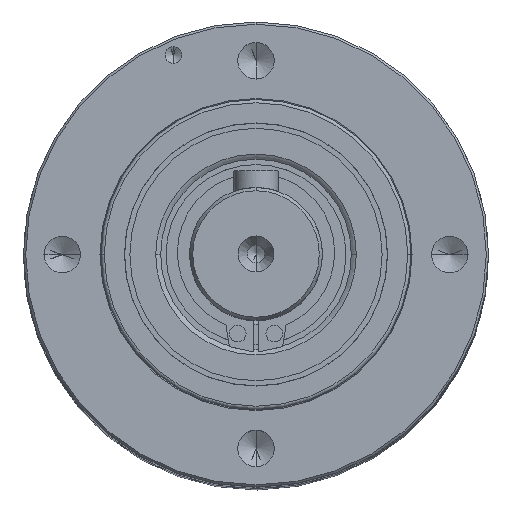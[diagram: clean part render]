
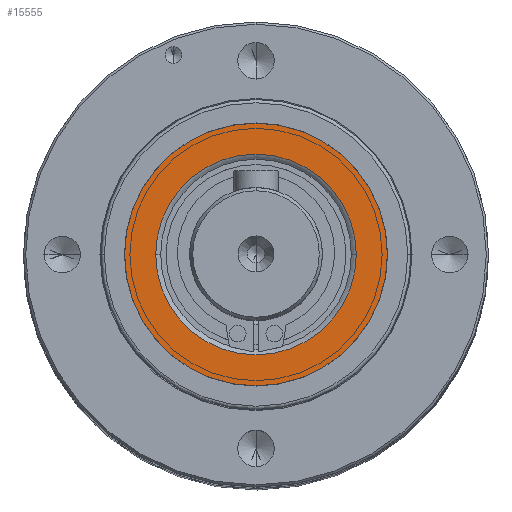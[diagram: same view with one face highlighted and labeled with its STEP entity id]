
A CAD part, top view. The second image highlights one B-rep face of the part: STEP entity #15555.
In plain terms, the highlighted planar face has unit normal (0, 0, 1).
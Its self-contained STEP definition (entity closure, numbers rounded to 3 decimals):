
#1227 = VERTEX_POINT ( 'NONE', #36074 ) ;
#2956 = EDGE_CURVE ( 'NONE', #4146, #1227, #72561, .T. ) ;
#4146 = VERTEX_POINT ( 'NONE', #12856 ) ;
#7455 = DIRECTION ( 'NONE',  ( 0., 0., -1. ) ) ;
#10378 = PLANE ( 'NONE',  #18056 ) ;
#10730 = CARTESIAN_POINT ( 'NONE',  ( 16.996, -8.599, 138.685 ) ) ;
#11499 = ORIENTED_EDGE ( 'NONE', *, *, #39391, .T. ) ;
#11932 = DIRECTION ( 'NONE',  ( 0., 0., 1. ) ) ;
#12856 = CARTESIAN_POINT ( 'NONE',  ( 14.191, -8.599, 138.685 ) ) ;
#14253 = CARTESIAN_POINT ( 'NONE',  ( 5.131, -8.599, 138.685 ) ) ;
#15555 = ADVANCED_FACE ( 'NONE', ( #58976, #46921 ), #10378, .T. ) ;
#16932 = CARTESIAN_POINT ( 'NONE',  ( 5.131, -8.599, 138.685 ) ) ;
#18056 = AXIS2_PLACEMENT_3D ( 'NONE', #74185, #11932, #56512 ) ;
#19812 = DIRECTION ( 'NONE',  ( 0., 0., 1. ) ) ;
#21439 = ORIENTED_EDGE ( 'NONE', *, *, #74111, .F. ) ;
#25767 = ORIENTED_EDGE ( 'NONE', *, *, #63637, .F. ) ;
#26029 = AXIS2_PLACEMENT_3D ( 'NONE', #61184, #19812, #68792 ) ;
#26328 = DIRECTION ( 'NONE',  ( 1., 0., 0. ) ) ;
#28348 = EDGE_LOOP ( 'NONE', ( #21439, #62830 ) ) ;
#31706 = AXIS2_PLACEMENT_3D ( 'NONE', #16932, #41418, #65950 ) ;
#32944 = CIRCLE ( 'NONE', #31706, 9.06 ) ;
#36074 = CARTESIAN_POINT ( 'NONE',  ( -3.929, -8.599, 138.685 ) ) ;
#38961 = EDGE_LOOP ( 'NONE', ( #25767, #11499 ) ) ;
#39391 = EDGE_CURVE ( 'NONE', #69210, #68154, #68340, .T. ) ;
#41418 = DIRECTION ( 'NONE',  ( 0., 0., 1. ) ) ;
#46906 = AXIS2_PLACEMENT_3D ( 'NONE', #14253, #69256, #52355 ) ;
#46921 = FACE_OUTER_BOUND ( 'NONE', #38961, .T. ) ;
#52355 = DIRECTION ( 'NONE',  ( 1., 0., 0. ) ) ;
#54394 = CARTESIAN_POINT ( 'NONE',  ( -6.734, -8.599, 138.685 ) ) ;
#56512 = DIRECTION ( 'NONE',  ( 1., 0., 0. ) ) ;
#58976 = FACE_BOUND ( 'NONE', #28348, .T. ) ;
#61184 = CARTESIAN_POINT ( 'NONE',  ( 5.131, -8.599, 138.685 ) ) ;
#62830 = ORIENTED_EDGE ( 'NONE', *, *, #2956, .T. ) ;
#63637 = EDGE_CURVE ( 'NONE', #69210, #68154, #64392, .T. ) ;
#64392 = CIRCLE ( 'NONE', #74608, 11.865 ) ;
#65950 = DIRECTION ( 'NONE',  ( 1., 0., 0. ) ) ;
#68154 = VERTEX_POINT ( 'NONE', #54394 ) ;
#68340 = CIRCLE ( 'NONE', #26029, 11.865 ) ;
#68792 = DIRECTION ( 'NONE',  ( 1., 0., 0. ) ) ;
#69210 = VERTEX_POINT ( 'NONE', #10730 ) ;
#69256 = DIRECTION ( 'NONE',  ( 0., 0., -1. ) ) ;
#72561 = CIRCLE ( 'NONE', #46906, 9.06 ) ;
#74111 = EDGE_CURVE ( 'NONE', #4146, #1227, #32944, .T. ) ;
#74185 = CARTESIAN_POINT ( 'NONE',  ( 5.131, -8.599, 138.685 ) ) ;
#74608 = AXIS2_PLACEMENT_3D ( 'NONE', #76476, #7455, #26328 ) ;
#76476 = CARTESIAN_POINT ( 'NONE',  ( 5.131, -8.599, 138.685 ) ) ;
